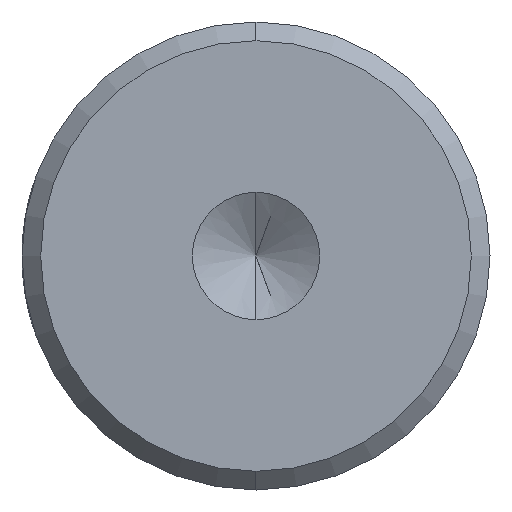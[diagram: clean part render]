
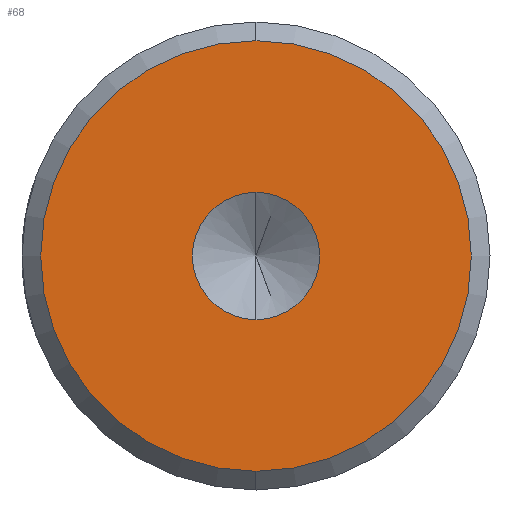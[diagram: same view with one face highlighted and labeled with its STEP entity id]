
A CAD part, left-side view. The second image highlights one B-rep face of the part: STEP entity #68.
In plain terms, the highlighted planar face has unit normal (-1, 0, 0).
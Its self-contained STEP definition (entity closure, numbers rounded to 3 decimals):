
#13 = EDGE_LOOP ( 'NONE', ( #42, #67 ) ) ;
#15 = VERTEX_POINT ( 'NONE', #272 ) ;
#41 = EDGE_CURVE ( 'NONE', #116, #96, #277, .T. ) ;
#42 = ORIENTED_EDGE ( 'NONE', *, *, #41, .F. ) ;
#43 = EDGE_LOOP ( 'NONE', ( #46, #938 ) ) ;
#46 = ORIENTED_EDGE ( 'NONE', *, *, #63, .T. ) ;
#63 = EDGE_CURVE ( 'NONE', #15, #111, #364, .T. ) ;
#67 = ORIENTED_EDGE ( 'NONE', *, *, #109, .F. ) ;
#68 = ADVANCED_FACE ( 'NONE', ( #351, #359 ), #336, .T. ) ;
#96 = VERTEX_POINT ( 'NONE', #396 ) ;
#109 = EDGE_CURVE ( 'NONE', #96, #116, #400, .T. ) ;
#111 = VERTEX_POINT ( 'NONE', #459 ) ;
#116 = VERTEX_POINT ( 'NONE', #450 ) ;
#118 = EDGE_CURVE ( 'NONE', #111, #15, #394, .T. ) ;
#272 = CARTESIAN_POINT ( 'NONE',  ( 0., 0., -11.5 ) ) ;
#277 = CIRCLE ( 'NONE', #325, 3.4 ) ;
#320 = DIRECTION ( 'NONE',  ( 0., 0., 1. ) ) ;
#321 = DIRECTION ( 'NONE',  ( -1., 0., 0. ) ) ;
#325 = AXIS2_PLACEMENT_3D ( 'NONE', #330, #321, #320 ) ;
#330 = CARTESIAN_POINT ( 'NONE',  ( 0., 0., 0. ) ) ;
#336 = PLANE ( 'NONE',  #363 ) ;
#340 = DIRECTION ( 'NONE',  ( 0., 0., 1. ) ) ;
#341 = DIRECTION ( 'NONE',  ( -1., 0., 0. ) ) ;
#342 = CARTESIAN_POINT ( 'NONE',  ( 0., 12.5, 0. ) ) ;
#351 = FACE_BOUND ( 'NONE', #13, .T. ) ;
#353 = DIRECTION ( 'NONE',  ( 0., 0., 1. ) ) ;
#354 = DIRECTION ( 'NONE',  ( -1., 0., 0. ) ) ;
#355 = CARTESIAN_POINT ( 'NONE',  ( 0., 0., 0. ) ) ;
#356 = AXIS2_PLACEMENT_3D ( 'NONE', #355, #354, #353 ) ;
#359 = FACE_OUTER_BOUND ( 'NONE', #43, .T. ) ;
#363 = AXIS2_PLACEMENT_3D ( 'NONE', #342, #341, #340 ) ;
#364 = CIRCLE ( 'NONE', #356, 11.5 ) ;
#394 = CIRCLE ( 'NONE', #429, 11.5 ) ;
#396 = CARTESIAN_POINT ( 'NONE',  ( 0., 0., -3.4 ) ) ;
#400 = CIRCLE ( 'NONE', #457, 3.4 ) ;
#428 = DIRECTION ( 'NONE',  ( 0., 0., 1. ) ) ;
#429 = AXIS2_PLACEMENT_3D ( 'NONE', #437, #439, #428 ) ;
#437 = CARTESIAN_POINT ( 'NONE',  ( 0., 0., 0. ) ) ;
#439 = DIRECTION ( 'NONE',  ( -1., 0., 0. ) ) ;
#450 = CARTESIAN_POINT ( 'NONE',  ( 0., 0., 3.4 ) ) ;
#454 = DIRECTION ( 'NONE',  ( 0., 0., 1. ) ) ;
#455 = DIRECTION ( 'NONE',  ( -1., 0., 0. ) ) ;
#456 = CARTESIAN_POINT ( 'NONE',  ( 0., 0., 0. ) ) ;
#457 = AXIS2_PLACEMENT_3D ( 'NONE', #456, #455, #454 ) ;
#459 = CARTESIAN_POINT ( 'NONE',  ( 0., 0., 11.5 ) ) ;
#938 = ORIENTED_EDGE ( 'NONE', *, *, #118, .T. ) ;
